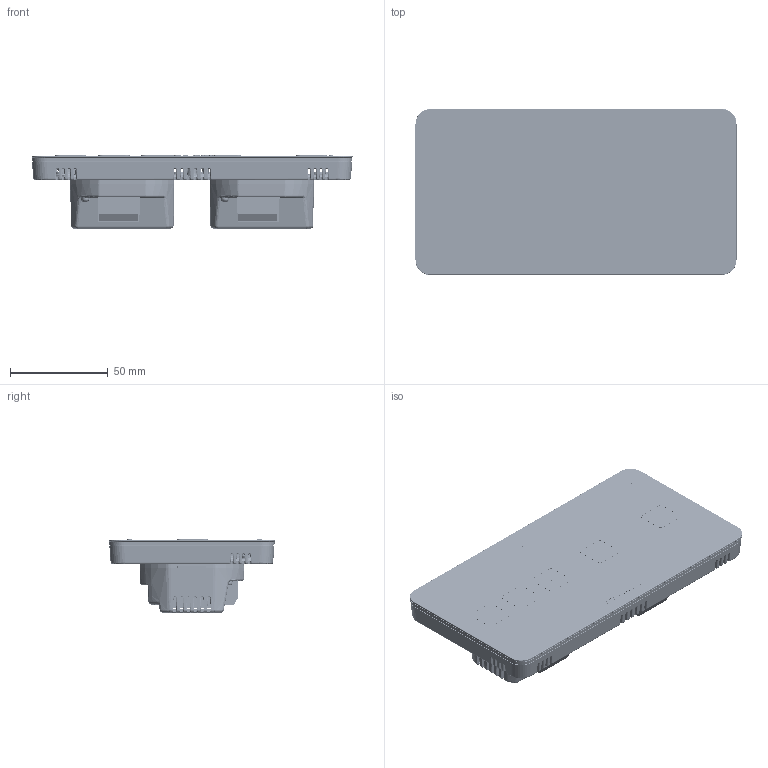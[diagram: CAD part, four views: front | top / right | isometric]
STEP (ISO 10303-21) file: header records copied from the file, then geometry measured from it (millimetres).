
FILE_DESCRIPTION(/* description */ (''),/* implementation_level */ '2;1');
FILE_NAME(/* name */ 'WSS32.step',/* time_stamp */ '2026-01-28T17:34:07+01:00',/* author */ (''),/* organization */ (''),/* preprocessor_version */ 'ST-DEVELOPER v20.1',/* originating_system */ 'Autodesk Translation Framework v14.24.0.0',/* authorisation */ '');
FILE_SCHEMA (('AUTOMOTIVE_DESIGN { 1 0 10303 214 3 1 1 }'));
Products named in the file (21): 2; OP-1398-ramkowiec; IRM-02-05; Relpol duży 12v; gora laczki1; DIN ISO 7049 - C-H ST2.2 x 6.5 - C - H; DIN ISO 7049 - C-H ST2.2 x 9.5 - C - H; DIN ISO 7050 - C-H ST2.2 x 9.5 - C - H; oslona G; OSLONA G1; spod1; WYSWIETLACZ DEDEYK BIG; blacha OP-1020-E-2; ISO 7049 - C-H ST 2.2 x 6.5 - C - H; PODSWIETLENIE; plytka puszka1.2; OP-1399_A; łączka 5; WSS32; LOGO; Komponent36
Assembly tree (49 placements, depth 3):
  2
    PODSWIETLENIE  x6
    OP-1398-ramkowiec  x2
      plytka puszka1.2
      IRM-02-05
      Relpol duży 12v
      gora laczki1
      łączka 5
    DIN ISO 7049 - C-H ST2.2 x 6.5 - C - H  x6
    ISO 7049 - C-H ST 2.2 x 6.5 - C - H  x4
    DIN ISO 7049 - C-H ST2.2 x 9.5 - C - H
    DIN ISO 7050 - C-H ST2.2 x 9.5 - C - H
    oslona G
    OSLONA G1
    spod1
    WYSWIETLACZ DEDEYK BIG
    OP-1399_A  x2
    blacha OP-1020-E-2
    łączka 5  x10
    plytka puszka1.2
    WSS32
      LOGO
    Komponent36
Bounding box: 164.15 x 84.87 x 37.4 mm (x, y, z)
Volume: 159772.5 mm3; surface area: 205046.5 mm2
Topology: 103 solids, 103 shells, 18555 faces, 52734 edges, 34539 vertices
Faces by surface type: cone 9988, plane 4559, bspline 1829, cylinder 1589, torus 507, sphere 83
Full cylindrical faces by diameter (mm): 0.9 x18, 1 x6, 1.5 x2, 1.8 x6, 2.2 x18, 2.4 x4, 2.702 x18, 3 x18, 3.8 x1, 4 x6, 4.6 x4, 8.2 x3
Entity records: 263040 total; most frequent: CARTESIAN_POINT 79598, ORIENTED_EDGE 38164, DIRECTION 35259, EDGE_CURVE 19082, VERTEX_POINT 13359, AXIS2_PLACEMENT_3D 11909, LINE 11441, VECTOR 11441
